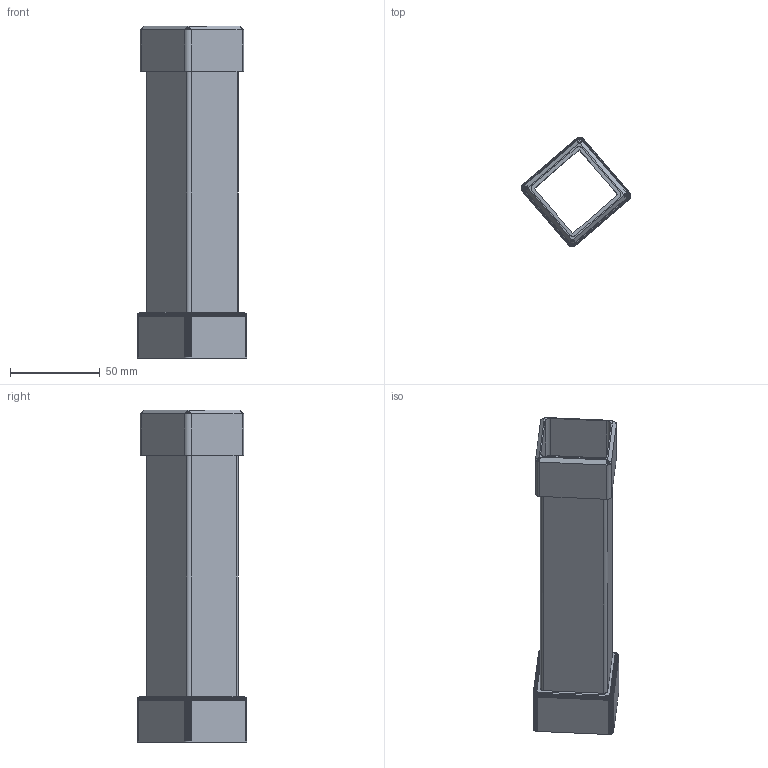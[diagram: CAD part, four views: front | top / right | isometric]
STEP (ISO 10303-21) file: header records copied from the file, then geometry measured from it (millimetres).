
FILE_DESCRIPTION(('Open CASCADE Model'),'2;1');
FILE_NAME('Open CASCADE Shape Model','2026-10-27T00:16:21',('Author'),( 'Open CASCADE'),'Open CASCADE STEP processor 7.9','Open CASCADE 7.9' ,'Unknown');
FILE_SCHEMA(('AUTOMOTIVE_DESIGN { 1 0 10303 214 1 1 1 1 }'));
Length unit declared in the file: millimetre
Products named in the file (1): Open CASCADE STEP translator 7.9 1
Bounding box: 61.12 x 61.12 x 184.78 mm (x, y, z)
Volume: 59260 mm3; surface area: 56023.4 mm2
Topology: 1 solids, 1 shells, 324 faces, 754 edges, 436 vertices
Faces by surface type: plane 267, sphere 32, cylinder 16, bspline 9
Entity records: 23104 total; most frequent: CARTESIAN_POINT 8857, DIRECTION 2255, LINE 1615, VECTOR 1615, ORIENTED_EDGE 1508, PCURVE 1508, DEFINITIONAL_REPRESENTATION 1508, EDGE_CURVE 754
